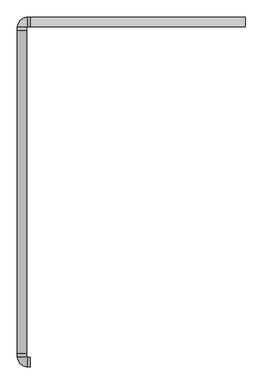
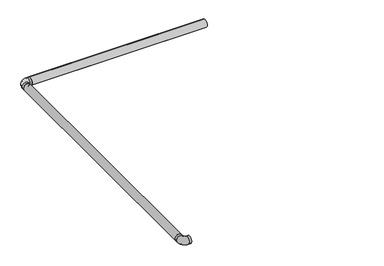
"""IFC4 building model written with IfcOpenShell, lengths in millimetres: light fixture geometry, ARTEMIDE-AoL-StandAlone-SquareRectangular_Suspended : StandALone_Suspended_SquareRectangular-1321x1911mm 11754lm 3000K."""

from ifc_helpers import new_model, si_unit, point, frame, frame_2d, origin, place, context, project, spatial, polyline, circle_curve, ellipse_curve, trimmed, segment, composite_curve, outline, extrude, source, transform, mapped, element, save
from ifc_brep_helpers import plane_surface, cylinder_surface, revolved_surface, advanced_brep


def light_fixture_18781653(model_context):
    return source(origin(), model_context, "Body", "SolidModel", [
        advanced_brep(
        [(13.25, -69.5, 502.9333396), (13.25, -69.5, 507.259212), (9.695913, -69.5, 507.259212), (9.695913, -69.5, 508.785971), (15.4937425, -69.5, 508.785971), (15.4937425, -69.5, 514.4273482), (34.5062575, -69.5, 514.4273482), (34.5062575, -69.5, 508.785971), (40.304087, -69.5, 508.785971), (40.304087, -69.5, 507.259212), (36.75, -69.5, 507.259212), (36.75, -69.5, 502.9333396), (70.5, -126.75, 502.9333396), (70.5, -103.25, 502.9333396), (70.5, -103.25, 507.259212), (70.5, -99.695913, 507.259212), (70.5, -99.695913, 508.785971), (70.5, -105.4937425, 508.785971), (70.5, -105.4937425, 514.4273482), (70.5, -124.5062575, 514.4273482), (70.5, -124.5062575, 508.785971), (70.5, -130.304087, 508.785971), (70.5, -130.304087, 507.259212), (70.5, -126.75, 507.259212), (36.75, -85.0, 502.9333396), (13.25, -85.0, 502.9333396), (36.75, -85.0, 507.259212), (40.304087, -85.0, 507.259212), (55.0, -99.695913, 507.259212), (55.0, -103.25, 507.259212), (40.304087, -85.0, 508.785971), (34.5062575, -85.0, 508.785971), (55.0, -105.4937425, 508.785971), (55.0, -99.695913, 508.785971), (34.5062575, -85.0, 514.4273482), (15.4937425, -85.0, 514.4273482), (55.0, -124.5062575, 514.4273482), (55.0, -105.4937425, 514.4273482), (15.4937425, -85.0, 508.785971), (9.695913, -85.0, 508.785971), (55.0, -130.304087, 508.785971), (55.0, -124.5062575, 508.785971), (9.695913, -85.0, 507.259212), (13.25, -85.0, 507.259212), (55.0, -126.75, 507.259212), (55.0, -130.304087, 507.259212), (55.0, -126.75, 502.9333396), (55.0, -103.25, 502.9333396)],
        [
            (0, 1),
            (1, 2),
            (2, 3),
            (3, 4),
            (4, 5),
            (5, 6),
            (6, 7),
            (7, 8),
            (8, 9),
            (9, 10),
            (10, 11),
            (11, 0, circle_curve(frame((25.0, -69.5, 525.0), z_axis=(0.0, 1.0, 0.0), x_axis=(1.0, 0.0, 0.0)), 25.0)),
            (12, 13, circle_curve(frame((70.5, -115.0, 525.0), z_axis=(1.0, 0.0, 0.0), x_axis=(0.0, 1.0, 0.0)), 25.0)),
            (13, 14),
            (14, 15),
            (15, 16),
            (16, 17),
            (17, 18),
            (18, 19),
            (19, 20),
            (20, 21),
            (21, 22),
            (22, 23),
            (23, 12),
            (11, 24),
            (24, 25, circle_curve(frame((25.0, -85.0, 525.0), z_axis=(0.0, 1.0, 0.0), x_axis=(1.0, 0.0, 0.0)), 25.0)),
            (25, 0),
            (10, 26),
            (26, 24),
            (9, 27),
            (27, 28, circle_curve(frame((55.0, -85.0, 507.259212), z_axis=(0.0, 0.0, 1.0), x_axis=(-1.0, 0.0, 0.0)), 14.695913)),
            (28, 15),
            (14, 29),
            (29, 26, circle_curve(frame((55.0, -85.0, 507.259212), z_axis=(0.0, 0.0, -1.0), x_axis=(-1.0, 0.0, 0.0)), 18.25)),
            (8, 30),
            (30, 27),
            (7, 31),
            (31, 32, circle_curve(frame((55.0, -85.0, 508.785971), z_axis=(0.0, 0.0, 1.0), x_axis=(-1.0, 0.0, 0.0)), 20.4937425)),
            (32, 17),
            (16, 33),
            (33, 30, circle_curve(frame((55.0, -85.0, 508.785971), z_axis=(0.0, 0.0, -1.0), x_axis=(-1.0, 0.0, 0.0)), 14.695913)),
            (6, 34),
            (34, 31),
            (5, 35),
            (35, 36, circle_curve(frame((55.0, -85.0, 514.4273482), z_axis=(0.0, 0.0, 1.0), x_axis=(-1.0, 0.0, 0.0)), 39.5062575)),
            (36, 19),
            (18, 37),
            (37, 34, circle_curve(frame((55.0, -85.0, 514.4273482), z_axis=(0.0, 0.0, -1.0), x_axis=(-1.0, 0.0, 0.0)), 20.4937425)),
            (4, 38),
            (38, 35),
            (3, 39),
            (39, 40, circle_curve(frame((55.0, -85.0, 508.785971), z_axis=(0.0, 0.0, 1.0), x_axis=(-1.0, 0.0, 0.0)), 45.304087)),
            (40, 21),
            (20, 41),
            (41, 38, circle_curve(frame((55.0, -85.0, 508.785971), z_axis=(0.0, 0.0, -1.0), x_axis=(-1.0, 0.0, 0.0)), 39.5062575)),
            (2, 42),
            (42, 39),
            (1, 43),
            (43, 44, circle_curve(frame((55.0, -85.0, 507.259212), z_axis=(0.0, 0.0, 1.0), x_axis=(-1.0, 0.0, 0.0)), 41.75)),
            (44, 23),
            (22, 45),
            (45, 42, circle_curve(frame((55.0, -85.0, 507.259212), z_axis=(0.0, 0.0, -1.0), x_axis=(-1.0, 0.0, 0.0)), 45.304087)),
            (25, 43),
            (46, 25, circle_curve(frame((55.0, -85.0, 502.9333396), z_axis=(0.0, 0.0, -1.0), x_axis=(-1.0, 0.0, 0.0)), 41.75)),
            (24, 47, circle_curve(frame((55.0, -85.0, 502.9333396), z_axis=(0.0, 0.0, 1.0), x_axis=(-1.0, 0.0, 0.0)), 18.25)),
            (47, 46, circle_curve(frame((55.0, -115.0, 525.0), z_axis=(-1.0, 0.0, 0.0), x_axis=(0.0, 1.0, 0.0)), 25.0)),
            (29, 47),
            (33, 28),
            (37, 32),
            (41, 36),
            (45, 40),
            (46, 44),
            (47, 13),
            (12, 46),
        ],
        [
            plane_surface(frame((25.0, -69.5, 500.0), z_axis=(0.0, 1.0, 0.0), x_axis=(0.0, 0.0, 1.0))),
            plane_surface(frame((70.5, -115.0, 500.0), z_axis=(1.0, 0.0, 0.0), x_axis=(0.0, 0.0, 1.0))),
            cylinder_surface(frame((25.0, -69.5, 525.0), z_axis=(0.0, 1.0, 0.0), x_axis=(1.0, 0.0, 0.0)), 25.0),
            plane_surface(frame((36.75, -69.5, 507.259212), z_axis=(1.0, 0.0, 0.0), x_axis=(0.0, -1.0, 0.0))),
            plane_surface(frame((40.304087, -69.5, 507.259212), z_axis=(0.0, 0.0, -1.0), x_axis=(0.0, -1.0, 0.0))),
            plane_surface(frame((40.304087, -69.5, 508.785971), z_axis=(1.0, 0.0, 0.0), x_axis=(0.0, -1.0, 0.0))),
            plane_surface(frame((34.5062575, -69.5, 508.785971), z_axis=(0.0, 0.0, 1.0), x_axis=(0.0, -1.0, 0.0))),
            plane_surface(frame((34.5062575, -69.5, 514.4273482), z_axis=(1.0, 0.0, 0.0), x_axis=(0.0, -1.0, 0.0))),
            plane_surface(frame((15.4937425, -69.5, 514.4273482), z_axis=(0.0, 0.0, 1.0), x_axis=(0.0, -1.0, 0.0))),
            plane_surface(frame((15.4937425, -69.5, 508.785971), z_axis=(-1.0, 0.0, 0.0), x_axis=(0.0, -1.0, 0.0))),
            plane_surface(frame((9.695913, -69.5, 508.785971), z_axis=(0.0, 0.0, 1.0), x_axis=(0.0, -1.0, 0.0))),
            plane_surface(frame((9.695913, -69.5, 507.259212), z_axis=(-1.0, 0.0, 0.0), x_axis=(0.0, -1.0, 0.0))),
            plane_surface(frame((13.25, -69.5, 507.259212), z_axis=(0.0, 0.0, -1.0), x_axis=(0.0, -1.0, 0.0))),
            plane_surface(frame((13.25, -69.5, 502.9333396), z_axis=(-1.0, 0.0, 0.0), x_axis=(0.0, -1.0, 0.0))),
            revolved_surface(trimmed(ellipse_curve(frame((25.0, -85.0, 525.0), z_axis=(0.0, 1.0, 0.0), x_axis=(1.0, 0.0, 0.0)), 25.0, 25.0), [point((36.75, -85.0, 502.9333396))], [point((13.25, -85.0, 502.9333396))], True, "CARTESIAN"), (55.0, -85.0, 500.0), (0.0, 0.0, 1.0)),
            revolved_surface(polyline([(36.75, -85.0, 507.259212), (36.75, -85.0, 502.9333396)]), (55.0, -85.0, 500.0), (0.0, 0.0, 1.0)),
            revolved_surface(polyline([(40.304087, -85.0, 508.785971), (40.304087, -85.0, 507.259212)]), (55.0, -85.0, 500.0), (0.0, 0.0, 1.0)),
            revolved_surface(polyline([(34.506257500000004, -85.0, 514.4273482), (34.506257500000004, -85.0, 508.785971)]), (55.0, -85.0, 500.0), (0.0, 0.0, 1.0)),
            cylinder_surface(frame((55.0, -85.0, 500.0), z_axis=(0.0, 0.0, 1.0), x_axis=(-1.0, 0.0, 0.0)), 39.5062575),
            cylinder_surface(frame((55.0, -85.0, 500.0), z_axis=(0.0, 0.0, 1.0), x_axis=(-1.0, 0.0, 0.0)), 45.304087),
            cylinder_surface(frame((55.0, -85.0, 500.0), z_axis=(0.0, 0.0, 1.0), x_axis=(-1.0, 0.0, 0.0)), 41.75),
            cylinder_surface(frame((55.0, -115.0, 525.0), z_axis=(-1.0, 0.0, 0.0), x_axis=(0.0, 1.0, 0.0)), 25.0),
            plane_surface(frame((55.0, -103.25, 507.259212), z_axis=(0.0, 1.0, 0.0), x_axis=(1.0, 0.0, 0.0))),
            plane_surface(frame((55.0, -99.695913, 508.785971), z_axis=(0.0, 1.0, 0.0), x_axis=(1.0, 0.0, 0.0))),
            plane_surface(frame((55.0, -105.4937425, 514.4273482), z_axis=(0.0, 1.0, 0.0), x_axis=(1.0, 0.0, 0.0))),
            plane_surface(frame((55.0, -124.5062575, 508.785971), z_axis=(0.0, -1.0, 0.0), x_axis=(1.0, 0.0, 0.0))),
            plane_surface(frame((55.0, -130.304087, 507.259212), z_axis=(0.0, -1.0, 0.0), x_axis=(1.0, 0.0, 0.0))),
            plane_surface(frame((55.0, -126.75, 502.9333396), z_axis=(0.0, -1.0, 0.0), x_axis=(1.0, 0.0, 0.0))),
        ],
        [
            (0, [[1, 2, 3, 4, 5, 6, 7, 8, 9, 10, 11, 12]]),
            (1, [[13, 14, 15, 16, 17, 18, 19, 20, 21, 22, 23, 24]]),
            (2, [[-12, 25, 26, 27]]),
            (3, [[-11, 28, 29, -25]]),
            (4, [[-10, 30, 31, 32, -15, 33, 34, -28]]),
            (5, [[-9, 35, 36, -30]]),
            (6, [[-8, 37, 38, 39, -17, 40, 41, -35]]),
            (7, [[-7, 42, 43, -37]]),
            (8, [[-6, 44, 45, 46, -19, 47, 48, -42]]),
            (9, [[-5, 49, 50, -44]]),
            (10, [[-4, 51, 52, 53, -21, 54, 55, -49]]),
            (11, [[-3, 56, 57, -51]]),
            (12, [[-2, 58, 59, 60, -23, 61, 62, -56]]),
            (13, [[-1, -27, 63, -58]]),
            (14, [[64, -26, 65, 66]]),
            (15, [[-65, -29, -34, 67]]),
            (16, [[-31, -36, -41, 68]]),
            (17, [[-38, -43, -48, 69]]),
            (18, [[-45, -50, -55, 70]]),
            (19, [[-52, -57, -62, 71]]),
            (20, [[-59, -63, -64, 72]]),
            (21, [[-66, 73, -13, 74]]),
            (22, [[-67, -33, -14, -73]]),
            (23, [[-68, -40, -16, -32]]),
            (24, [[-69, -47, -18, -39]]),
            (25, [[-70, -54, -20, -46]]),
            (26, [[-71, -61, -22, -53]]),
            (27, [[-72, -74, -24, -60]]),
        ],
    ),
        advanced_brep(
        [(36.75, -69.5, 502.9333396), (36.75, -69.5, 507.259212), (38.667754, -69.5, 507.259212), (38.667754, -69.5, 505.8288843), (40.617754, -69.5, 507.2440748), (40.617754, -69.5, 509.244074), (37.667754, -69.5, 509.244074), (37.667754, -69.5, 510.744074), (42.2779794, -69.5, 510.744074), (7.7220206, -69.5, 510.744074), (12.332246, -69.5, 510.744074), (12.332246, -69.5, 509.244074), (9.382246, -69.5, 509.244074), (9.382246, -69.5, 507.2440748), (11.332246, -69.5, 505.8288843), (11.332246, -69.5, 507.259212), (13.25, -69.5, 507.259212), (13.25, -69.5, 502.9333396), (70.5, -103.25, 502.9333396), (70.5, -126.75, 502.9333396), (70.5, -126.75, 507.259212), (70.5, -128.667754, 507.259212), (70.5, -128.667754, 505.8288843), (70.5, -130.617754, 507.2440748), (70.5, -130.617754, 509.244074), (70.5, -127.667754, 509.244074), (70.5, -127.667754, 510.744074), (70.5, -132.2779794, 510.744074), (70.5, -97.7220206, 510.744074), (70.5, -102.332246, 510.744074), (70.5, -102.332246, 509.244074), (70.5, -99.382246, 509.244074), (70.5, -99.382246, 507.2440748), (70.5, -101.332246, 505.8288843), (70.5, -101.332246, 507.259212), (70.5, -103.25, 507.259212), (13.25, -85.0, 502.9333396), (36.75, -85.0, 502.9333396), (13.25, -85.0, 507.259212), (11.332246, -85.0, 507.259212), (55.0, -128.667754, 507.259212), (55.0, -126.75, 507.259212), (11.332246, -85.0, 505.8288843), (9.382246, -85.0, 507.2440748), (9.382246, -85.0, 509.244074), (12.332246, -85.0, 509.244074), (55.0, -127.667754, 509.244074), (55.0, -130.617754, 509.244074), (12.332246, -85.0, 510.744074), (7.7220206, -85.0, 510.744074), (55.0, -132.2779794, 510.744074), (55.0, -127.667754, 510.744074), (42.2779794, -85.0, 510.744074), (37.667754, -85.0, 510.744074), (55.0, -102.332246, 510.744074), (55.0, -97.7220206, 510.744074), (37.667754, -85.0, 509.244074), (40.617754, -85.0, 509.244074), (55.0, -99.382246, 509.244074), (55.0, -102.332246, 509.244074), (40.617754, -85.0, 507.2440748), (38.667754, -85.0, 505.8288843), (38.667754, -85.0, 507.259212), (36.75, -85.0, 507.259212), (55.0, -103.25, 507.259212), (55.0, -101.332246, 507.259212), (55.0, -103.25, 502.9333396), (55.0, -126.75, 502.9333396), (55.0, -128.667754, 505.8288843), (55.0, -130.617754, 507.2440748), (55.0, -99.382246, 507.2440748), (55.0, -101.332246, 505.8288843)],
        [
            (0, 1),
            (1, 2),
            (2, 3),
            (3, 4),
            (4, 5),
            (5, 6),
            (6, 7),
            (7, 8),
            (8, 9, circle_curve(frame((25.0, -69.5, 525.0), z_axis=(0.0, -1.0, 0.0), x_axis=(1.0, 0.0, 0.0)), 22.4)),
            (9, 10),
            (10, 11),
            (11, 12),
            (12, 13),
            (13, 14),
            (14, 15),
            (15, 16),
            (16, 17),
            (17, 0, circle_curve(frame((25.0, -69.5, 525.0), z_axis=(0.0, 1.0, 0.0), x_axis=(1.0, 0.0, 0.0)), 25.0)),
            (18, 19, circle_curve(frame((70.5, -115.0, 525.0), z_axis=(1.0, 0.0, 0.0), x_axis=(0.0, 1.0, 0.0)), 25.0)),
            (19, 20),
            (20, 21),
            (21, 22),
            (22, 23),
            (23, 24),
            (24, 25),
            (25, 26),
            (26, 27),
            (27, 28, circle_curve(frame((70.5, -115.0, 525.0), z_axis=(-1.0, 0.0, 0.0), x_axis=(0.0, 1.0, 0.0)), 22.4)),
            (28, 29),
            (29, 30),
            (30, 31),
            (31, 32),
            (32, 33),
            (33, 34),
            (34, 35),
            (35, 18),
            (17, 36),
            (36, 37, circle_curve(frame((25.0, -85.0, 525.0), z_axis=(0.0, 1.0, 0.0), x_axis=(1.0, 0.0, 0.0)), 25.0)),
            (37, 0),
            (16, 38),
            (38, 36),
            (15, 39),
            (39, 40, circle_curve(frame((55.0, -85.0, 507.259212), z_axis=(0.0, 0.0, 1.0), x_axis=(-1.0, 0.0, 0.0)), 43.667754)),
            (40, 21),
            (20, 41),
            (41, 38, circle_curve(frame((55.0, -85.0, 507.259212), z_axis=(0.0, 0.0, -1.0), x_axis=(-1.0, 0.0, 0.0)), 41.75)),
            (14, 42),
            (42, 39),
            (13, 43),
            (43, 42),
            (12, 44),
            (44, 43),
            (11, 45),
            (45, 46, circle_curve(frame((55.0, -85.0, 509.244074), z_axis=(0.0, 0.0, 1.0), x_axis=(-1.0, 0.0, 0.0)), 42.667754)),
            (46, 25),
            (24, 47),
            (47, 44, circle_curve(frame((55.0, -85.0, 509.244074), z_axis=(0.0, 0.0, -1.0), x_axis=(-1.0, 0.0, 0.0)), 45.617754)),
            (10, 48),
            (48, 45),
            (9, 49),
            (49, 50, circle_curve(frame((55.0, -85.0, 510.744074), z_axis=(0.0, 0.0, 1.0), x_axis=(-1.0, 0.0, 0.0)), 47.2779794)),
            (50, 27),
            (26, 51),
            (51, 48, circle_curve(frame((55.0, -85.0, 510.744074), z_axis=(0.0, 0.0, -1.0), x_axis=(-1.0, 0.0, 0.0)), 42.667754)),
            (8, 52),
            (52, 49, circle_curve(frame((25.0, -85.0, 525.0), z_axis=(0.0, -1.0, 0.0), x_axis=(1.0, 0.0, 0.0)), 22.4)),
            (7, 53),
            (53, 54, circle_curve(frame((55.0, -85.0, 510.744074), z_axis=(0.0, 0.0, 1.0), x_axis=(-1.0, 0.0, 0.0)), 17.332246)),
            (54, 29),
            (28, 55),
            (55, 52, circle_curve(frame((55.0, -85.0, 510.744074), z_axis=(0.0, 0.0, -1.0), x_axis=(-1.0, 0.0, 0.0)), 12.7220206)),
            (6, 56),
            (56, 53),
            (5, 57),
            (57, 58, circle_curve(frame((55.0, -85.0, 509.244074), z_axis=(0.0, 0.0, 1.0), x_axis=(-1.0, 0.0, 0.0)), 14.382246)),
            (58, 31),
            (30, 59),
            (59, 56, circle_curve(frame((55.0, -85.0, 509.244074), z_axis=(0.0, 0.0, -1.0), x_axis=(-1.0, 0.0, 0.0)), 17.332246)),
            (4, 60),
            (60, 57),
            (3, 61),
            (61, 60),
            (2, 62),
            (62, 61),
            (1, 63),
            (63, 64, circle_curve(frame((55.0, -85.0, 507.259212), z_axis=(0.0, 0.0, 1.0), x_axis=(-1.0, 0.0, 0.0)), 18.25)),
            (64, 35),
            (34, 65),
            (65, 62, circle_curve(frame((55.0, -85.0, 507.259212), z_axis=(0.0, 0.0, -1.0), x_axis=(-1.0, 0.0, 0.0)), 16.332246)),
            (37, 63),
            (66, 37, circle_curve(frame((55.0, -85.0, 502.9333396), z_axis=(0.0, 0.0, -1.0), x_axis=(-1.0, 0.0, 0.0)), 18.25)),
            (36, 67, circle_curve(frame((55.0, -85.0, 502.9333396), z_axis=(0.0, 0.0, 1.0), x_axis=(-1.0, 0.0, 0.0)), 41.75)),
            (67, 66, circle_curve(frame((55.0, -115.0, 525.0), z_axis=(-1.0, 0.0, 0.0), x_axis=(0.0, 1.0, 0.0)), 25.0)),
            (41, 67),
            (42, 68, circle_curve(frame((55.0, -85.0, 505.8288843), z_axis=(0.0, 0.0, 1.0), x_axis=(-1.0, 0.0, 0.0)), 43.667754)),
            (68, 40),
            (43, 69, circle_curve(frame((55.0, -85.0, 507.2440748), z_axis=(0.0, 0.0, 1.0), x_axis=(-1.0, 0.0, 0.0)), 45.617754)),
            (69, 68),
            (47, 69),
            (51, 46),
            (55, 50, circle_curve(frame((55.0, -115.0, 525.0), z_axis=(1.0, 0.0, 0.0), x_axis=(0.0, 1.0, 0.0)), 22.4)),
            (59, 54),
            (60, 70, circle_curve(frame((55.0, -85.0, 507.2440748), z_axis=(0.0, 0.0, 1.0), x_axis=(-1.0, 0.0, 0.0)), 14.382246)),
            (70, 58),
            (61, 71, circle_curve(frame((55.0, -85.0, 505.8288843), z_axis=(0.0, 0.0, 1.0), x_axis=(-1.0, 0.0, 0.0)), 16.332246)),
            (71, 70),
            (65, 71),
            (66, 64),
            (67, 19),
            (18, 66),
            (68, 22),
            (69, 23),
            (70, 32),
            (71, 33),
        ],
        [
            plane_surface(frame((25.0, -69.5, 500.0), z_axis=(0.0, 1.0, 0.0), x_axis=(0.0, 0.0, 1.0))),
            plane_surface(frame((70.5, -115.0, 500.0), z_axis=(1.0, 0.0, 0.0), x_axis=(0.0, 0.0, 1.0))),
            cylinder_surface(frame((25.0, -69.5, 525.0), z_axis=(0.0, 1.0, 0.0), x_axis=(1.0, 0.0, 0.0)), 25.0),
            plane_surface(frame((13.25, -69.5, 507.259212), z_axis=(1.0, 0.0, 0.0), x_axis=(0.0, -1.0, 0.0))),
            plane_surface(frame((11.332246, -69.5, 507.259212), z_axis=(0.0, 0.0, 1.0), x_axis=(0.0, -1.0, 0.0))),
            plane_surface(frame((11.332246, -69.5, 505.8288843), z_axis=(-1.0, 0.0, 0.0), x_axis=(0.0, -1.0, 0.0))),
            plane_surface(frame((9.382246, -69.5, 507.2440748), z_axis=(0.5873593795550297, 0.0, 0.8093262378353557), x_axis=(0.0, -1.0, 0.0))),
            plane_surface(frame((9.382246, -69.5, 509.244074), z_axis=(1.0, 0.0, 0.0), x_axis=(0.0, -1.0, 0.0))),
            plane_surface(frame((12.332246, -69.5, 509.244074), z_axis=(0.0, 0.0, -1.0), x_axis=(0.0, -1.0, 0.0))),
            plane_surface(frame((12.332246, -69.5, 510.744074), z_axis=(1.0, 0.0, 0.0), x_axis=(0.0, -1.0, 0.0))),
            plane_surface(frame((7.7220206, -69.5, 510.744074), z_axis=(0.0, 0.0, 1.0), x_axis=(0.0, -1.0, 0.0))),
            revolved_surface(polyline([(47.4, -85.0, 525.0), (47.4, -69.5, 525.0)]), (25.0, -69.5, 525.0), (0.0, -1.0, 0.0)),
            plane_surface(frame((37.667754, -69.5, 510.744074), z_axis=(0.0, 0.0, 1.0), x_axis=(0.0, -1.0, 0.0))),
            plane_surface(frame((37.667754, -69.5, 509.244074), z_axis=(-1.0, 0.0, 0.0), x_axis=(0.0, -1.0, 0.0))),
            plane_surface(frame((40.617754, -69.5, 509.244074), z_axis=(0.0, 0.0, -1.0), x_axis=(0.0, -1.0, 0.0))),
            plane_surface(frame((40.617754, -69.5, 507.2440748), z_axis=(-1.0, 0.0, 0.0), x_axis=(0.0, -1.0, 0.0))),
            plane_surface(frame((38.667754, -69.5, 505.8288843), z_axis=(-0.5873593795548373, 0.0, 0.8093262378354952), x_axis=(0.0, -1.0, 0.0))),
            plane_surface(frame((38.667754, -69.5, 507.259212), z_axis=(1.0, 0.0, 0.0), x_axis=(0.0, -1.0, 0.0))),
            plane_surface(frame((36.75, -69.5, 507.259212), z_axis=(0.0, 0.0, 1.0), x_axis=(0.0, -1.0, 0.0))),
            plane_surface(frame((36.75, -69.5, 502.9333396), z_axis=(-1.0, 0.0, 0.0), x_axis=(0.0, -1.0, 0.0))),
            revolved_surface(trimmed(ellipse_curve(frame((25.0, -85.0, 525.0), z_axis=(0.0, 1.0, 0.0), x_axis=(1.0, 0.0, 0.0)), 25.0, 25.0), [point((13.25, -85.0, 502.9333396))], [point((36.75, -85.0, 502.9333396))], True, "CARTESIAN"), (55.0, -85.0, 500.0), (0.0, 0.0, 1.0)),
            revolved_surface(polyline([(13.25, -85.0, 507.259212), (13.25, -85.0, 502.9333396)]), (55.0, -85.0, 500.0), (0.0, 0.0, 1.0)),
            cylinder_surface(frame((55.0, -85.0, 500.0), z_axis=(0.0, 0.0, 1.0), x_axis=(-1.0, 0.0, 0.0)), 43.667754),
            revolved_surface(polyline([(9.382246, -85.0, 507.2440748), (11.332246, -85.0, 505.8288843)]), (55.0, -85.0, 500.0), (0.0, 0.0, 1.0)),
            revolved_surface(polyline([(9.382246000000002, -85.0, 509.244074), (9.382246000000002, -85.0, 507.2440748)]), (55.0, -85.0, 500.0), (0.0, 0.0, 1.0)),
            revolved_surface(polyline([(12.332245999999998, -85.0, 510.744074), (12.332245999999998, -85.0, 509.244074)]), (55.0, -85.0, 500.0), (0.0, 0.0, 1.0)),
            revolved_surface(trimmed(ellipse_curve(frame((25.0, -85.0, 525.0), z_axis=(0.0, -1.0, 0.0), x_axis=(1.0, 0.0, 0.0)), 22.4, 22.4), [point((42.2779794, -85.0, 510.744074))], [point((7.7220206, -85.0, 510.744074))], True, "CARTESIAN"), (55.0, -85.0, 500.0), (0.0, 0.0, 1.0)),
            cylinder_surface(frame((55.0, -85.0, 500.0), z_axis=(0.0, 0.0, 1.0), x_axis=(-1.0, 0.0, 0.0)), 17.332246),
            cylinder_surface(frame((55.0, -85.0, 500.0), z_axis=(0.0, 0.0, 1.0), x_axis=(-1.0, 0.0, 0.0)), 14.382246),
            revolved_surface(polyline([(38.667754, -85.0, 505.8288843), (40.617754, -85.0, 507.2440748)]), (55.0, -85.0, 500.0), (0.0, 0.0, 1.0)),
            revolved_surface(polyline([(38.667754, -85.0, 507.259212), (38.667754, -85.0, 505.8288843)]), (55.0, -85.0, 500.0), (0.0, 0.0, 1.0)),
            cylinder_surface(frame((55.0, -85.0, 500.0), z_axis=(0.0, 0.0, 1.0), x_axis=(-1.0, 0.0, 0.0)), 18.25),
            cylinder_surface(frame((55.0, -115.0, 525.0), z_axis=(-1.0, 0.0, 0.0), x_axis=(0.0, 1.0, 0.0)), 25.0),
            plane_surface(frame((55.0, -126.75, 507.259212), z_axis=(0.0, 1.0, 0.0), x_axis=(1.0, 0.0, 0.0))),
            plane_surface(frame((55.0, -128.667754, 505.8288843), z_axis=(0.0, -1.0, 0.0), x_axis=(1.0, 0.0, 0.0))),
            plane_surface(frame((55.0, -130.617754, 507.2440748), z_axis=(0.0, 0.5873593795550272, 0.8093262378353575), x_axis=(1.0, 0.0, 0.0))),
            plane_surface(frame((55.0, -130.617754, 509.244074), z_axis=(0.0, 1.0, 0.0), x_axis=(1.0, 0.0, 0.0))),
            plane_surface(frame((55.0, -127.667754, 510.744074), z_axis=(0.0, 1.0, 0.0), x_axis=(1.0, 0.0, 0.0))),
            revolved_surface(polyline([(70.5, -92.6, 525.0), (55.0, -92.6, 525.0)]), (55.0, -115.0, 525.0), (1.0, 0.0, 0.0)),
            plane_surface(frame((55.0, -102.332246, 509.244074), z_axis=(0.0, -1.0, 0.0), x_axis=(1.0, 0.0, 0.0))),
            plane_surface(frame((55.0, -99.382246, 507.2440748), z_axis=(0.0, -1.0, 0.0), x_axis=(1.0, 0.0, 0.0))),
            plane_surface(frame((55.0, -101.332246, 505.8288843), z_axis=(0.0, -0.5873593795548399, 0.8093262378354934), x_axis=(1.0, 0.0, 0.0))),
            plane_surface(frame((55.0, -101.332246, 507.259212), z_axis=(0.0, 1.0, 0.0), x_axis=(1.0, 0.0, 0.0))),
            plane_surface(frame((55.0, -103.25, 502.9333396), z_axis=(0.0, -1.0, 0.0), x_axis=(1.0, 0.0, 0.0))),
        ],
        [
            (0, [[1, 2, 3, 4, 5, 6, 7, 8, 9, 10, 11, 12, 13, 14, 15, 16, 17, 18]]),
            (1, [[19, 20, 21, 22, 23, 24, 25, 26, 27, 28, 29, 30, 31, 32, 33, 34, 35, 36]]),
            (2, [[-18, 37, 38, 39]]),
            (3, [[-17, 40, 41, -37]]),
            (4, [[-16, 42, 43, 44, -21, 45, 46, -40]]),
            (5, [[-15, 47, 48, -42]]),
            (6, [[-14, 49, 50, -47]]),
            (7, [[-13, 51, 52, -49]]),
            (8, [[-12, 53, 54, 55, -25, 56, 57, -51]]),
            (9, [[-11, 58, 59, -53]]),
            (10, [[-10, 60, 61, 62, -27, 63, 64, -58]]),
            (11, [[-9, 65, 66, -60]]),
            (12, [[-8, 67, 68, 69, -29, 70, 71, -65]]),
            (13, [[-7, 72, 73, -67]]),
            (14, [[-6, 74, 75, 76, -31, 77, 78, -72]]),
            (15, [[-5, 79, 80, -74]]),
            (16, [[-4, 81, 82, -79]]),
            (17, [[-3, 83, 84, -81]]),
            (18, [[-2, 85, 86, 87, -35, 88, 89, -83]]),
            (19, [[-1, -39, 90, -85]]),
            (20, [[91, -38, 92, 93]]),
            (21, [[-92, -41, -46, 94]]),
            (22, [[-43, -48, 95, 96]]),
            (23, [[-95, -50, 97, 98]]),
            (24, [[-97, -52, -57, 99]]),
            (25, [[-54, -59, -64, 100]]),
            (26, [[-61, -66, -71, 101]]),
            (27, [[-68, -73, -78, 102]]),
            (28, [[-75, -80, 103, 104]]),
            (29, [[-103, -82, 105, 106]]),
            (30, [[-105, -84, -89, 107]]),
            (31, [[-86, -90, -91, 108]]),
            (32, [[-93, 109, -19, 110]]),
            (33, [[-94, -45, -20, -109]]),
            (34, [[-96, 111, -22, -44]]),
            (35, [[-98, 112, -23, -111]]),
            (36, [[-99, -56, -24, -112]]),
            (37, [[-100, -63, -26, -55]]),
            (38, [[-101, -70, -28, -62]]),
            (39, [[-102, -77, -30, -69]]),
            (40, [[-104, 113, -32, -76]]),
            (41, [[-106, 114, -33, -113]]),
            (42, [[-107, -88, -34, -114]]),
            (43, [[-108, -110, -36, -87]]),
        ],
    ),
        advanced_brep(
        [(13.25, 1700.5, 502.9333396), (36.75, 1700.5, 502.9333396), (36.75, 1700.5, 507.259212), (40.304087, 1700.5, 507.259212), (40.304087, 1700.5, 508.785971), (34.5062575, 1700.5, 508.785971), (34.5062575, 1700.5, 514.4273482), (15.4937425, 1700.5, 514.4273482), (15.4937425, 1700.5, 508.785971), (9.695913, 1700.5, 508.785971), (9.695913, 1700.5, 507.259212), (13.25, 1700.5, 507.259212), (70.5, 1757.75, 502.9333396), (70.5, 1757.75, 507.259212), (70.5, 1761.304087, 507.259212), (70.5, 1761.304087, 508.785971), (70.5, 1755.5062575, 508.785971), (70.5, 1755.5062575, 514.4273482), (70.5, 1736.4937425, 514.4273482), (70.5, 1736.4937425, 508.785971), (70.5, 1730.695913, 508.785971), (70.5, 1730.695913, 507.259212), (70.5, 1734.25, 507.259212), (70.5, 1734.25, 502.9333396), (13.25, 1716.0, 502.9333396), (36.75, 1716.0, 502.9333396), (36.75, 1716.0, 507.259212), (55.0, 1734.25, 507.259212), (55.0, 1730.695913, 507.259212), (40.304087, 1716.0, 507.259212), (40.304087, 1716.0, 508.785971), (55.0, 1730.695913, 508.785971), (55.0, 1736.4937425, 508.785971), (34.5062575, 1716.0, 508.785971), (34.5062575, 1716.0, 514.4273482), (55.0, 1736.4937425, 514.4273482), (55.0, 1755.5062575, 514.4273482), (15.4937425, 1716.0, 514.4273482), (15.4937425, 1716.0, 508.785971), (55.0, 1755.5062575, 508.785971), (55.0, 1761.304087, 508.785971), (9.695913, 1716.0, 508.785971), (9.695913, 1716.0, 507.259212), (55.0, 1761.304087, 507.259212), (55.0, 1757.75, 507.259212), (13.25, 1716.0, 507.259212), (55.0, 1734.25, 502.9333396), (55.0, 1757.75, 502.9333396)],
        [
            (0, 1, circle_curve(frame((25.0, 1700.5, 525.0), z_axis=(0.0, -1.0, 0.0), x_axis=(-1.0, 0.0, 0.0)), 25.0)),
            (1, 2),
            (2, 3),
            (3, 4),
            (4, 5),
            (5, 6),
            (6, 7),
            (7, 8),
            (8, 9),
            (9, 10),
            (10, 11),
            (11, 0),
            (12, 13),
            (13, 14),
            (14, 15),
            (15, 16),
            (16, 17),
            (17, 18),
            (18, 19),
            (19, 20),
            (20, 21),
            (21, 22),
            (22, 23),
            (23, 12, circle_curve(frame((70.5, 1746.0, 525.0), z_axis=(1.0, 0.0, 0.0), x_axis=(0.0, 1.0, 0.0)), 25.0)),
            (0, 24),
            (24, 25, circle_curve(frame((25.0, 1716.0, 525.0), z_axis=(0.0, -1.0, 0.0), x_axis=(-1.0, 0.0, 0.0)), 25.0)),
            (25, 1),
            (25, 26),
            (26, 2),
            (26, 27, circle_curve(frame((55.0, 1716.0, 507.259212), z_axis=(0.0, 0.0, -1.0), x_axis=(-1.0, 0.0, 0.0)), 18.25)),
            (27, 22),
            (21, 28),
            (28, 29, circle_curve(frame((55.0, 1716.0, 507.259212), z_axis=(0.0, 0.0, 1.0), x_axis=(-1.0, 0.0, 0.0)), 14.695913)),
            (29, 3),
            (29, 30),
            (30, 4),
            (30, 31, circle_curve(frame((55.0, 1716.0, 508.785971), z_axis=(0.0, 0.0, -1.0), x_axis=(-1.0, 0.0, 0.0)), 14.695913)),
            (31, 20),
            (19, 32),
            (32, 33, circle_curve(frame((55.0, 1716.0, 508.785971), z_axis=(0.0, 0.0, 1.0), x_axis=(-1.0, 0.0, 0.0)), 20.4937425)),
            (33, 5),
            (33, 34),
            (34, 6),
            (34, 35, circle_curve(frame((55.0, 1716.0, 514.4273482), z_axis=(0.0, 0.0, -1.0), x_axis=(-1.0, 0.0, 0.0)), 20.4937425)),
            (35, 18),
            (17, 36),
            (36, 37, circle_curve(frame((55.0, 1716.0, 514.4273482), z_axis=(0.0, 0.0, 1.0), x_axis=(-1.0, 0.0, 0.0)), 39.5062575)),
            (37, 7),
            (37, 38),
            (38, 8),
            (38, 39, circle_curve(frame((55.0, 1716.0, 508.785971), z_axis=(0.0, 0.0, -1.0), x_axis=(-1.0, 0.0, 0.0)), 39.5062575)),
            (39, 16),
            (15, 40),
            (40, 41, circle_curve(frame((55.0, 1716.0, 508.785971), z_axis=(0.0, 0.0, 1.0), x_axis=(-1.0, 0.0, 0.0)), 45.304087)),
            (41, 9),
            (41, 42),
            (42, 10),
            (42, 43, circle_curve(frame((55.0, 1716.0, 507.259212), z_axis=(0.0, 0.0, -1.0), x_axis=(-1.0, 0.0, 0.0)), 45.304087)),
            (43, 14),
            (13, 44),
            (44, 45, circle_curve(frame((55.0, 1716.0, 507.259212), z_axis=(0.0, 0.0, 1.0), x_axis=(-1.0, 0.0, 0.0)), 41.75)),
            (45, 11),
            (45, 24),
            (46, 25, circle_curve(frame((55.0, 1716.0, 502.9333396), z_axis=(0.0, 0.0, 1.0), x_axis=(-1.0, 0.0, 0.0)), 18.25)),
            (24, 47, circle_curve(frame((55.0, 1716.0, 502.9333396), z_axis=(0.0, 0.0, -1.0), x_axis=(-1.0, 0.0, 0.0)), 41.75)),
            (47, 46, circle_curve(frame((55.0, 1746.0, 525.0), z_axis=(-1.0, 0.0, 0.0), x_axis=(0.0, 1.0, 0.0)), 25.0)),
            (46, 27),
            (28, 31),
            (32, 35),
            (36, 39),
            (40, 43),
            (44, 47),
            (47, 12),
            (23, 46),
        ],
        [
            plane_surface(frame((25.0, 1700.5, 500.0), z_axis=(0.0, -1.0, 0.0), x_axis=(0.0, 0.0, 1.0))),
            plane_surface(frame((70.5, 1746.0, 500.0), z_axis=(1.0, 0.0, 0.0), x_axis=(0.0, 0.0, 1.0))),
            cylinder_surface(frame((25.0, 1700.5, 525.0), z_axis=(0.0, -1.0, 0.0), x_axis=(-1.0, 0.0, 0.0)), 25.0),
            plane_surface(frame((36.75, 1700.5, 502.9333396), z_axis=(1.0, 0.0, 0.0), x_axis=(0.0, 1.0, 0.0))),
            plane_surface(frame((36.75, 1700.5, 507.259212), z_axis=(0.0, 0.0, -1.0), x_axis=(0.0, 1.0, 0.0))),
            plane_surface(frame((40.304087, 1700.5, 507.259212), z_axis=(1.0, 0.0, 0.0), x_axis=(0.0, 1.0, 0.0))),
            plane_surface(frame((40.304087, 1700.5, 508.785971), z_axis=(0.0, 0.0, 1.0), x_axis=(0.0, 1.0, 0.0))),
            plane_surface(frame((34.5062575, 1700.5, 508.785971), z_axis=(1.0, 0.0, 0.0), x_axis=(0.0, 1.0, 0.0))),
            plane_surface(frame((34.5062575, 1700.5, 514.4273482), z_axis=(0.0, 0.0, 1.0), x_axis=(0.0, 1.0, 0.0))),
            plane_surface(frame((15.4937425, 1700.5, 514.4273482), z_axis=(-1.0, 0.0, 0.0), x_axis=(0.0, 1.0, 0.0))),
            plane_surface(frame((15.4937425, 1700.5, 508.785971), z_axis=(0.0, 0.0, 1.0), x_axis=(0.0, 1.0, 0.0))),
            plane_surface(frame((9.695913, 1700.5, 508.785971), z_axis=(-1.0, 0.0, 0.0), x_axis=(0.0, 1.0, 0.0))),
            plane_surface(frame((9.695913, 1700.5, 507.259212), z_axis=(0.0, 0.0, -1.0), x_axis=(0.0, 1.0, 0.0))),
            plane_surface(frame((13.25, 1700.5, 507.259212), z_axis=(-1.0, 0.0, 0.0), x_axis=(0.0, 1.0, 0.0))),
            revolved_surface(trimmed(ellipse_curve(frame((25.0, 1716.0, 525.0), z_axis=(0.0, -1.0, 0.0), x_axis=(-1.0, 0.0, 0.0)), 25.0, 25.0), [point((13.25, 1716.0, 502.9333396))], [point((36.75, 1716.0, 502.9333396))], True, "CARTESIAN"), (55.0, 1716.0, 500.0), (0.0, 0.0, -1.0)),
            revolved_surface(polyline([(36.75, 1716.0, 502.9333396), (36.75, 1716.0, 507.259212)]), (55.0, 1716.0, 500.0), (0.0, 0.0, -1.0)),
            revolved_surface(polyline([(40.304087, 1716.0, 507.259212), (40.304087, 1716.0, 508.785971)]), (55.0, 1716.0, 500.0), (0.0, 0.0, -1.0)),
            revolved_surface(polyline([(34.506257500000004, 1716.0, 508.785971), (34.506257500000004, 1716.0, 514.4273482)]), (55.0, 1716.0, 500.0), (0.0, 0.0, -1.0)),
            cylinder_surface(frame((55.0, 1716.0, 500.0), z_axis=(0.0, 0.0, -1.0), x_axis=(-1.0, 0.0, 0.0)), 39.5062575),
            cylinder_surface(frame((55.0, 1716.0, 500.0), z_axis=(0.0, 0.0, -1.0), x_axis=(-1.0, 0.0, 0.0)), 45.304087),
            cylinder_surface(frame((55.0, 1716.0, 500.0), z_axis=(0.0, 0.0, -1.0), x_axis=(-1.0, 0.0, 0.0)), 41.75),
            cylinder_surface(frame((55.0, 1746.0, 525.0), z_axis=(-1.0, 0.0, 0.0), x_axis=(0.0, 1.0, 0.0)), 25.0),
            plane_surface(frame((55.0, 1734.25, 502.9333396), z_axis=(0.0, -1.0, 0.0), x_axis=(1.0, 0.0, 0.0))),
            plane_surface(frame((55.0, 1730.695913, 507.259212), z_axis=(0.0, -1.0, 0.0), x_axis=(1.0, 0.0, 0.0))),
            plane_surface(frame((55.0, 1736.4937425, 508.785971), z_axis=(0.0, -1.0, 0.0), x_axis=(1.0, 0.0, 0.0))),
            plane_surface(frame((55.0, 1755.5062575, 514.4273482), z_axis=(0.0, 1.0, 0.0), x_axis=(1.0, 0.0, 0.0))),
            plane_surface(frame((55.0, 1761.304087, 508.785971), z_axis=(0.0, 1.0, 0.0), x_axis=(1.0, 0.0, 0.0))),
            plane_surface(frame((55.0, 1757.75, 507.259212), z_axis=(0.0, 1.0, 0.0), x_axis=(1.0, 0.0, 0.0))),
        ],
        [
            (0, [[1, 2, 3, 4, 5, 6, 7, 8, 9, 10, 11, 12]]),
            (1, [[13, 14, 15, 16, 17, 18, 19, 20, 21, 22, 23, 24]]),
            (2, [[-1, 25, 26, 27]]),
            (3, [[-2, -27, 28, 29]]),
            (4, [[-3, -29, 30, 31, -22, 32, 33, 34]]),
            (5, [[-4, -34, 35, 36]]),
            (6, [[-5, -36, 37, 38, -20, 39, 40, 41]]),
            (7, [[-6, -41, 42, 43]]),
            (8, [[-7, -43, 44, 45, -18, 46, 47, 48]]),
            (9, [[-8, -48, 49, 50]]),
            (10, [[-9, -50, 51, 52, -16, 53, 54, 55]]),
            (11, [[-10, -55, 56, 57]]),
            (12, [[-11, -57, 58, 59, -14, 60, 61, 62]]),
            (13, [[-12, -62, 63, -25]]),
            (14, [[64, -26, 65, 66]]),
            (15, [[-30, -28, -64, 67]]),
            (16, [[-37, -35, -33, 68]]),
            (17, [[-44, -42, -40, 69]]),
            (18, [[-51, -49, -47, 70]]),
            (19, [[-58, -56, -54, 71]]),
            (20, [[-65, -63, -61, 72]]),
            (21, [[-66, 73, -24, 74]]),
            (22, [[-67, -74, -23, -31]]),
            (23, [[-68, -32, -21, -38]]),
            (24, [[-69, -39, -19, -45]]),
            (25, [[-70, -46, -17, -52]]),
            (26, [[-71, -53, -15, -59]]),
            (27, [[-72, -60, -13, -73]]),
        ],
    ),
        advanced_brep(
        [(36.75, 1700.5, 502.9333396), (13.25, 1700.5, 502.9333396), (13.25, 1700.5, 507.259212), (11.332246, 1700.5, 507.259212), (11.332246, 1700.5, 505.8288843), (9.382246, 1700.5, 507.2440748), (9.382246, 1700.5, 509.244074), (12.332246, 1700.5, 509.244074), (12.332246, 1700.5, 510.744074), (7.7220206, 1700.5, 510.744074), (42.2779794, 1700.5, 510.744074), (37.667754, 1700.5, 510.744074), (37.667754, 1700.5, 509.244074), (40.617754, 1700.5, 509.244074), (40.617754, 1700.5, 507.2440748), (38.667754, 1700.5, 505.8288843), (38.667754, 1700.5, 507.259212), (36.75, 1700.5, 507.259212), (70.5, 1734.25, 502.9333396), (70.5, 1734.25, 507.259212), (70.5, 1732.332246, 507.259212), (70.5, 1732.332246, 505.8288843), (70.5, 1730.382246, 507.2440748), (70.5, 1730.382246, 509.244074), (70.5, 1733.332246, 509.244074), (70.5, 1733.332246, 510.744074), (70.5, 1728.7220206, 510.744074), (70.5, 1763.2779794, 510.744074), (70.5, 1758.667754, 510.744074), (70.5, 1758.667754, 509.244074), (70.5, 1761.617754, 509.244074), (70.5, 1761.617754, 507.2440748), (70.5, 1759.667754, 505.8288843), (70.5, 1759.667754, 507.259212), (70.5, 1757.75, 507.259212), (70.5, 1757.75, 502.9333396), (36.75, 1716.0, 502.9333396), (13.25, 1716.0, 502.9333396), (13.25, 1716.0, 507.259212), (55.0, 1757.75, 507.259212), (55.0, 1759.667754, 507.259212), (11.332246, 1716.0, 507.259212), (11.332246, 1716.0, 505.8288843), (9.382246, 1716.0, 507.2440748), (9.382246, 1716.0, 509.244074), (55.0, 1761.617754, 509.244074), (55.0, 1758.667754, 509.244074), (12.332246, 1716.0, 509.244074), (12.332246, 1716.0, 510.744074), (55.0, 1758.667754, 510.744074), (55.0, 1763.2779794, 510.744074), (7.7220206, 1716.0, 510.744074), (42.2779794, 1716.0, 510.744074), (55.0, 1728.7220206, 510.744074), (55.0, 1733.332246, 510.744074), (37.667754, 1716.0, 510.744074), (37.667754, 1716.0, 509.244074), (55.0, 1733.332246, 509.244074), (55.0, 1730.382246, 509.244074), (40.617754, 1716.0, 509.244074), (40.617754, 1716.0, 507.2440748), (38.667754, 1716.0, 505.8288843), (38.667754, 1716.0, 507.259212), (55.0, 1732.332246, 507.259212), (55.0, 1734.25, 507.259212), (36.75, 1716.0, 507.259212), (55.0, 1757.75, 502.9333396), (55.0, 1734.25, 502.9333396), (55.0, 1759.667754, 505.8288843), (55.0, 1761.617754, 507.2440748), (55.0, 1730.382246, 507.2440748), (55.0, 1732.332246, 505.8288843)],
        [
            (0, 1, circle_curve(frame((25.0, 1700.5, 525.0), z_axis=(0.0, -1.0, 0.0), x_axis=(-1.0, 0.0, 0.0)), 25.0)),
            (1, 2),
            (2, 3),
            (3, 4),
            (4, 5),
            (5, 6),
            (6, 7),
            (7, 8),
            (8, 9),
            (9, 10, circle_curve(frame((25.0, 1700.5, 525.0), z_axis=(0.0, 1.0, 0.0), x_axis=(-1.0, 0.0, 0.0)), 22.4)),
            (10, 11),
            (11, 12),
            (12, 13),
            (13, 14),
            (14, 15),
            (15, 16),
            (16, 17),
            (17, 0),
            (18, 19),
            (19, 20),
            (20, 21),
            (21, 22),
            (22, 23),
            (23, 24),
            (24, 25),
            (25, 26),
            (26, 27, circle_curve(frame((70.5, 1746.0, 525.0), z_axis=(-1.0, 0.0, 0.0), x_axis=(0.0, 1.0, 0.0)), 22.4)),
            (27, 28),
            (28, 29),
            (29, 30),
            (30, 31),
            (31, 32),
            (32, 33),
            (33, 34),
            (34, 35),
            (35, 18, circle_curve(frame((70.5, 1746.0, 525.0), z_axis=(1.0, 0.0, 0.0), x_axis=(0.0, 1.0, 0.0)), 25.0)),
            (0, 36),
            (36, 37, circle_curve(frame((25.0, 1716.0, 525.0), z_axis=(0.0, -1.0, 0.0), x_axis=(-1.0, 0.0, 0.0)), 25.0)),
            (37, 1),
            (37, 38),
            (38, 2),
            (38, 39, circle_curve(frame((55.0, 1716.0, 507.259212), z_axis=(0.0, 0.0, -1.0), x_axis=(-1.0, 0.0, 0.0)), 41.75)),
            (39, 34),
            (33, 40),
            (40, 41, circle_curve(frame((55.0, 1716.0, 507.259212), z_axis=(0.0, 0.0, 1.0), x_axis=(-1.0, 0.0, 0.0)), 43.667754)),
            (41, 3),
            (41, 42),
            (42, 4),
            (42, 43),
            (43, 5),
            (43, 44),
            (44, 6),
            (44, 45, circle_curve(frame((55.0, 1716.0, 509.244074), z_axis=(0.0, 0.0, -1.0), x_axis=(-1.0, 0.0, 0.0)), 45.617754)),
            (45, 30),
            (29, 46),
            (46, 47, circle_curve(frame((55.0, 1716.0, 509.244074), z_axis=(0.0, 0.0, 1.0), x_axis=(-1.0, 0.0, 0.0)), 42.667754)),
            (47, 7),
            (47, 48),
            (48, 8),
            (48, 49, circle_curve(frame((55.0, 1716.0, 510.744074), z_axis=(0.0, 0.0, -1.0), x_axis=(-1.0, 0.0, 0.0)), 42.667754)),
            (49, 28),
            (27, 50),
            (50, 51, circle_curve(frame((55.0, 1716.0, 510.744074), z_axis=(0.0, 0.0, 1.0), x_axis=(-1.0, 0.0, 0.0)), 47.2779794)),
            (51, 9),
            (51, 52, circle_curve(frame((25.0, 1716.0, 525.0), z_axis=(0.0, 1.0, 0.0), x_axis=(-1.0, 0.0, 0.0)), 22.4)),
            (52, 10),
            (52, 53, circle_curve(frame((55.0, 1716.0, 510.744074), z_axis=(0.0, 0.0, -1.0), x_axis=(-1.0, 0.0, 0.0)), 12.7220206)),
            (53, 26),
            (25, 54),
            (54, 55, circle_curve(frame((55.0, 1716.0, 510.744074), z_axis=(0.0, 0.0, 1.0), x_axis=(-1.0, 0.0, 0.0)), 17.332246)),
            (55, 11),
            (55, 56),
            (56, 12),
            (56, 57, circle_curve(frame((55.0, 1716.0, 509.244074), z_axis=(0.0, 0.0, -1.0), x_axis=(-1.0, 0.0, 0.0)), 17.332246)),
            (57, 24),
            (23, 58),
            (58, 59, circle_curve(frame((55.0, 1716.0, 509.244074), z_axis=(0.0, 0.0, 1.0), x_axis=(-1.0, 0.0, 0.0)), 14.382246)),
            (59, 13),
            (59, 60),
            (60, 14),
            (60, 61),
            (61, 15),
            (61, 62),
            (62, 16),
            (62, 63, circle_curve(frame((55.0, 1716.0, 507.259212), z_axis=(0.0, 0.0, -1.0), x_axis=(-1.0, 0.0, 0.0)), 16.332246)),
            (63, 20),
            (19, 64),
            (64, 65, circle_curve(frame((55.0, 1716.0, 507.259212), z_axis=(0.0, 0.0, 1.0), x_axis=(-1.0, 0.0, 0.0)), 18.25)),
            (65, 17),
            (65, 36),
            (66, 37, circle_curve(frame((55.0, 1716.0, 502.9333396), z_axis=(0.0, 0.0, 1.0), x_axis=(-1.0, 0.0, 0.0)), 41.75)),
            (36, 67, circle_curve(frame((55.0, 1716.0, 502.9333396), z_axis=(0.0, 0.0, -1.0), x_axis=(-1.0, 0.0, 0.0)), 18.25)),
            (67, 66, circle_curve(frame((55.0, 1746.0, 525.0), z_axis=(-1.0, 0.0, 0.0), x_axis=(0.0, 1.0, 0.0)), 25.0)),
            (66, 39),
            (68, 42, circle_curve(frame((55.0, 1716.0, 505.8288843), z_axis=(0.0, 0.0, 1.0), x_axis=(-1.0, 0.0, 0.0)), 43.667754)),
            (40, 68),
            (69, 43, circle_curve(frame((55.0, 1716.0, 507.2440748), z_axis=(0.0, 0.0, 1.0), x_axis=(-1.0, 0.0, 0.0)), 45.617754)),
            (68, 69),
            (69, 45),
            (46, 49),
            (50, 53, circle_curve(frame((55.0, 1746.0, 525.0), z_axis=(1.0, 0.0, 0.0), x_axis=(0.0, 1.0, 0.0)), 22.4)),
            (54, 57),
            (70, 60, circle_curve(frame((55.0, 1716.0, 507.2440748), z_axis=(0.0, 0.0, 1.0), x_axis=(-1.0, 0.0, 0.0)), 14.382246)),
            (58, 70),
            (71, 61, circle_curve(frame((55.0, 1716.0, 505.8288843), z_axis=(0.0, 0.0, 1.0), x_axis=(-1.0, 0.0, 0.0)), 16.332246)),
            (70, 71),
            (71, 63),
            (64, 67),
            (67, 18),
            (35, 66),
            (32, 68),
            (31, 69),
            (22, 70),
            (21, 71),
        ],
        [
            plane_surface(frame((25.0, 1700.5, 500.0), z_axis=(0.0, -1.0, 0.0), x_axis=(0.0, 0.0, 1.0))),
            plane_surface(frame((70.5, 1746.0, 500.0), z_axis=(1.0, 0.0, 0.0), x_axis=(0.0, 0.0, 1.0))),
            cylinder_surface(frame((25.0, 1700.5, 525.0), z_axis=(0.0, -1.0, 0.0), x_axis=(-1.0, 0.0, 0.0)), 25.0),
            plane_surface(frame((13.25, 1700.5, 502.9333396), z_axis=(1.0, 0.0, 0.0), x_axis=(0.0, 1.0, 0.0))),
            plane_surface(frame((13.25, 1700.5, 507.259212), z_axis=(0.0, 0.0, 1.0), x_axis=(0.0, 1.0, 0.0))),
            plane_surface(frame((11.332246, 1700.5, 507.259212), z_axis=(-1.0, 0.0, 0.0), x_axis=(0.0, 1.0, 0.0))),
            plane_surface(frame((11.332246, 1700.5, 505.8288843), z_axis=(0.587359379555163, 0.0, 0.8093262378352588), x_axis=(0.0, 1.0, 0.0))),
            plane_surface(frame((9.382246, 1700.5, 507.2440748), z_axis=(1.0, 0.0, 0.0), x_axis=(0.0, 1.0, 0.0))),
            plane_surface(frame((9.382246, 1700.5, 509.244074), z_axis=(0.0, 0.0, -1.0), x_axis=(0.0, 1.0, 0.0))),
            plane_surface(frame((12.332246, 1700.5, 509.244074), z_axis=(1.0, 0.0, 0.0), x_axis=(0.0, 1.0, 0.0))),
            plane_surface(frame((12.332246, 1700.5, 510.744074), z_axis=(0.0, 0.0, 1.0), x_axis=(0.0, 1.0, 0.0))),
            revolved_surface(polyline([(2.6000000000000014, 1716.0, 525.0), (2.6000000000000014, 1700.5, 525.0)]), (25.0, 1700.5, 525.0), (0.0, 1.0, 0.0)),
            plane_surface(frame((42.2779794, 1700.5, 510.744074), z_axis=(0.0, 0.0, 1.0), x_axis=(0.0, 1.0, 0.0))),
            plane_surface(frame((37.667754, 1700.5, 510.744074), z_axis=(-1.0, 0.0, 0.0), x_axis=(0.0, 1.0, 0.0))),
            plane_surface(frame((37.667754, 1700.5, 509.244074), z_axis=(0.0, 0.0, -1.0), x_axis=(0.0, 1.0, 0.0))),
            plane_surface(frame((40.617754, 1700.5, 509.244074), z_axis=(-1.0, 0.0, 0.0), x_axis=(0.0, 1.0, 0.0))),
            plane_surface(frame((40.617754, 1700.5, 507.2440748), z_axis=(-0.5873593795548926, 0.0, 0.8093262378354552), x_axis=(0.0, 1.0, 0.0))),
            plane_surface(frame((38.667754, 1700.5, 505.8288843), z_axis=(1.0, 0.0, 0.0), x_axis=(0.0, 1.0, 0.0))),
            plane_surface(frame((38.667754, 1700.5, 507.259212), z_axis=(0.0, 0.0, 1.0), x_axis=(0.0, 1.0, 0.0))),
            plane_surface(frame((36.75, 1700.5, 507.259212), z_axis=(-1.0, 0.0, 0.0), x_axis=(0.0, 1.0, 0.0))),
            revolved_surface(trimmed(ellipse_curve(frame((25.0, 1716.0, 525.0), z_axis=(0.0, -1.0, 0.0), x_axis=(-1.0, 0.0, 0.0)), 25.0, 25.0), [point((36.75, 1716.0, 502.9333396))], [point((13.25, 1716.0, 502.9333396))], True, "CARTESIAN"), (55.0, 1716.0, 500.0), (0.0, 0.0, -1.0)),
            revolved_surface(polyline([(13.25, 1716.0, 502.9333396), (13.25, 1716.0, 507.259212)]), (55.0, 1716.0, 500.0), (0.0, 0.0, -1.0)),
            cylinder_surface(frame((55.0, 1716.0, 500.0), z_axis=(0.0, 0.0, -1.0), x_axis=(-1.0, 0.0, 0.0)), 43.667754),
            revolved_surface(polyline([(11.332246, 1716.0, 505.8288843), (9.382246, 1716.0, 507.2440748)]), (55.0, 1716.0, 500.0), (0.0, 0.0, -1.0)),
            revolved_surface(polyline([(9.382246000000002, 1716.0, 507.2440748), (9.382246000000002, 1716.0, 509.244074)]), (55.0, 1716.0, 500.0), (0.0, 0.0, -1.0)),
            revolved_surface(polyline([(12.332245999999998, 1716.0, 509.244074), (12.332245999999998, 1716.0, 510.744074)]), (55.0, 1716.0, 500.0), (0.0, 0.0, -1.0)),
            revolved_surface(trimmed(ellipse_curve(frame((25.0, 1716.0, 525.0), z_axis=(0.0, 1.0, 0.0), x_axis=(-1.0, 0.0, 0.0)), 22.4, 22.4), [point((7.7220206, 1716.0, 510.744074))], [point((42.2779794, 1716.0, 510.744074))], True, "CARTESIAN"), (55.0, 1716.0, 500.0), (0.0, 0.0, -1.0)),
            cylinder_surface(frame((55.0, 1716.0, 500.0), z_axis=(0.0, 0.0, -1.0), x_axis=(-1.0, 0.0, 0.0)), 17.332246),
            cylinder_surface(frame((55.0, 1716.0, 500.0), z_axis=(0.0, 0.0, -1.0), x_axis=(-1.0, 0.0, 0.0)), 14.382246),
            revolved_surface(polyline([(40.617754, 1716.0, 507.2440748), (38.667754, 1716.0, 505.8288843)]), (55.0, 1716.0, 500.0), (0.0, 0.0, -1.0)),
            revolved_surface(polyline([(38.667754, 1716.0, 505.8288843), (38.667754, 1716.0, 507.259212)]), (55.0, 1716.0, 500.0), (0.0, 0.0, -1.0)),
            cylinder_surface(frame((55.0, 1716.0, 500.0), z_axis=(0.0, 0.0, -1.0), x_axis=(-1.0, 0.0, 0.0)), 18.25),
            cylinder_surface(frame((55.0, 1746.0, 525.0), z_axis=(-1.0, 0.0, 0.0), x_axis=(0.0, 1.0, 0.0)), 25.0),
            plane_surface(frame((55.0, 1757.75, 502.9333396), z_axis=(0.0, -1.0, 0.0), x_axis=(1.0, 0.0, 0.0))),
            plane_surface(frame((55.0, 1759.667754, 507.259212), z_axis=(0.0, 1.0, 0.0), x_axis=(1.0, 0.0, 0.0))),
            plane_surface(frame((55.0, 1759.667754, 505.8288843), z_axis=(0.0, -0.5873593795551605, 0.8093262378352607), x_axis=(1.0, 0.0, 0.0))),
            plane_surface(frame((55.0, 1761.617754, 507.2440748), z_axis=(0.0, -1.0, 0.0), x_axis=(1.0, 0.0, 0.0))),
            plane_surface(frame((55.0, 1758.667754, 509.244074), z_axis=(0.0, -1.0, 0.0), x_axis=(1.0, 0.0, 0.0))),
            revolved_surface(polyline([(70.5, 1768.4, 525.0), (55.0, 1768.4, 525.0)]), (55.0, 1746.0, 525.0), (1.0, 0.0, 0.0)),
            plane_surface(frame((55.0, 1733.332246, 510.744074), z_axis=(0.0, 1.0, 0.0), x_axis=(1.0, 0.0, 0.0))),
            plane_surface(frame((55.0, 1730.382246, 509.244074), z_axis=(0.0, 1.0, 0.0), x_axis=(1.0, 0.0, 0.0))),
            plane_surface(frame((55.0, 1730.382246, 507.2440748), z_axis=(0.0, 0.5873593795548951, 0.8093262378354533), x_axis=(1.0, 0.0, 0.0))),
            plane_surface(frame((55.0, 1732.332246, 505.8288843), z_axis=(0.0, -1.0, 0.0), x_axis=(1.0, 0.0, 0.0))),
            plane_surface(frame((55.0, 1734.25, 507.259212), z_axis=(0.0, 1.0, 0.0), x_axis=(1.0, 0.0, 0.0))),
        ],
        [
            (0, [[1, 2, 3, 4, 5, 6, 7, 8, 9, 10, 11, 12, 13, 14, 15, 16, 17, 18]]),
            (1, [[19, 20, 21, 22, 23, 24, 25, 26, 27, 28, 29, 30, 31, 32, 33, 34, 35, 36]]),
            (2, [[-1, 37, 38, 39]]),
            (3, [[-2, -39, 40, 41]]),
            (4, [[-3, -41, 42, 43, -34, 44, 45, 46]]),
            (5, [[-4, -46, 47, 48]]),
            (6, [[-5, -48, 49, 50]]),
            (7, [[-6, -50, 51, 52]]),
            (8, [[-7, -52, 53, 54, -30, 55, 56, 57]]),
            (9, [[-8, -57, 58, 59]]),
            (10, [[-9, -59, 60, 61, -28, 62, 63, 64]]),
            (11, [[-10, -64, 65, 66]]),
            (12, [[-11, -66, 67, 68, -26, 69, 70, 71]]),
            (13, [[-12, -71, 72, 73]]),
            (14, [[-13, -73, 74, 75, -24, 76, 77, 78]]),
            (15, [[-14, -78, 79, 80]]),
            (16, [[-15, -80, 81, 82]]),
            (17, [[-16, -82, 83, 84]]),
            (18, [[-17, -84, 85, 86, -20, 87, 88, 89]]),
            (19, [[-18, -89, 90, -37]]),
            (20, [[91, -38, 92, 93]]),
            (21, [[-42, -40, -91, 94]]),
            (22, [[95, -47, -45, 96]]),
            (23, [[97, -49, -95, 98]]),
            (24, [[-53, -51, -97, 99]]),
            (25, [[-60, -58, -56, 100]]),
            (26, [[-67, -65, -63, 101]]),
            (27, [[-74, -72, -70, 102]]),
            (28, [[103, -79, -77, 104]]),
            (29, [[105, -81, -103, 106]]),
            (30, [[-85, -83, -105, 107]]),
            (31, [[-92, -90, -88, 108]]),
            (32, [[-93, 109, -36, 110]]),
            (33, [[-94, -110, -35, -43]]),
            (34, [[-96, -44, -33, 111]]),
            (35, [[-98, -111, -32, 112]]),
            (36, [[-99, -112, -31, -54]]),
            (37, [[-100, -55, -29, -61]]),
            (38, [[-101, -62, -27, -68]]),
            (39, [[-102, -69, -25, -75]]),
            (40, [[-104, -76, -23, 113]]),
            (41, [[-106, -113, -22, 114]]),
            (42, [[-107, -114, -21, -86]]),
            (43, [[-108, -87, -19, -109]]),
        ],
    ),
        extrude(outline(composite_curve([segment(polyline([(1757.75, 502.9333396), (1757.75, 507.259212), (1759.667754, 507.259212), (1759.667754, 505.8288843), (1761.617754, 507.2440748), (1761.617754, 509.244074), (1758.667754, 509.244074), (1758.667754, 510.744074), (1763.2779794, 510.744074)]), True, "CONTINUOUS"), segment(trimmed(circle_curve(frame_2d((1746.0, 525.0)), 22.4), [point((1763.2779794, 510.744074))], [point((1728.7220206, 510.744074))], True, "CARTESIAN"), True, "CONTINUOUS"), segment(polyline([(1728.7220206, 510.744074), (1733.332246, 510.744074), (1733.332246, 509.244074), (1730.382246, 509.244074), (1730.382246, 507.2440748), (1732.332246, 505.8288843), (1732.332246, 507.259212), (1734.25, 507.259212), (1734.25, 502.9333396)]), True, "CONTINUOUS"), segment(trimmed(circle_curve(frame_2d((1746.0, 525.0)), 25.0), [point((1734.25, 502.9333396))], [point((1757.75, 502.9333396))], False, "CARTESIAN"), True, "CONTINUOUS")], self_intersect=False)), frame((70.5, 0.0, 0.0), z_axis=(1.0, 0.0, 0.0), x_axis=(0.0, 1.0, 0.0)), (0.0, 0.0, 1.0), 1180.0032014),
        extrude(outline(composite_curve([segment(polyline([(1734.25, 502.9333396), (1734.25, 507.259212), (1730.695913, 507.259212), (1730.695913, 508.785971), (1736.4937425, 508.785971), (1736.4937425, 514.4273482), (1755.5062575, 514.4273482), (1755.5062575, 508.785971), (1761.304087, 508.785971), (1761.304087, 507.259212), (1757.75, 507.259212), (1757.75, 502.9333396)]), True, "CONTINUOUS"), segment(trimmed(circle_curve(frame_2d((1746.0, 525.0)), 25.0), [point((1757.75, 502.9333396))], [point((1734.25, 502.9333396))], False, "CARTESIAN"), True, "CONTINUOUS")], self_intersect=False)), frame((70.5, 0.0, 0.0), z_axis=(1.0, 0.0, 0.0), x_axis=(0.0, 1.0, 0.0)), (0.0, 0.0, 1.0), 1180.0032014),
        extrude(outline(composite_curve([segment(polyline([(502.9333396, 13.25), (507.259212, 13.25), (507.259212, 11.332246), (505.8288843, 11.332246), (507.2440748, 9.382246), (509.244074, 9.382246), (509.244074, 12.332246), (510.744074, 12.332246), (510.744074, 7.7220206)]), True, "CONTINUOUS"), segment(trimmed(circle_curve(frame_2d((525.0, 25.0)), 22.4), [point((510.744074, 7.7220206))], [point((510.744074, 42.2779794))], True, "CARTESIAN"), True, "CONTINUOUS"), segment(polyline([(510.744074, 42.2779794), (510.744074, 37.667754), (509.244074, 37.667754), (509.244074, 40.617754), (507.2440748, 40.617754), (505.8288843, 38.667754), (507.259212, 38.667754), (507.259212, 36.75), (502.9333396, 36.75)]), True, "CONTINUOUS"), segment(trimmed(circle_curve(frame_2d((525.0, 25.0)), 25.0), [point((502.9333396, 36.75))], [point((502.9333396, 13.25))], False, "CARTESIAN"), True, "CONTINUOUS")], self_intersect=False)), frame((0.0, -69.5, 0.0), z_axis=(0.0, 1.0, 0.0), x_axis=(0.0, 0.0, 1.0)), (0.0, 0.0, 1.0), 1770.0),
        extrude(outline(composite_curve([segment(polyline([(502.9333396, 36.75), (507.259212, 36.75), (507.259212, 40.304087), (508.785971, 40.304087), (508.785971, 34.5062575), (514.4273482, 34.5062575), (514.4273482, 15.4937425), (508.785971, 15.4937425), (508.785971, 9.695913), (507.259212, 9.695913), (507.259212, 13.25), (502.9333396, 13.25)]), True, "CONTINUOUS"), segment(trimmed(circle_curve(frame_2d((525.0, 25.0)), 25.0), [point((502.9333396, 13.25))], [point((502.9333396, 36.75))], False, "CARTESIAN"), True, "CONTINUOUS")], self_intersect=False)), frame((0.0, -69.5, 0.0), z_axis=(0.0, 1.0, 0.0), x_axis=(0.0, 0.0, 1.0)), (0.0, 0.0, 1.0), 1770.0),
    ])


if __name__ == "__main__":
    model = new_model("IFC4")
    model_context = context("Model", 3, world=origin())
    ifc_project = project(units=[si_unit("LENGTHUNIT", "METRE", prefix="MILLI")], contexts=[model_context])
    site = spatial("IfcSite", under=ifc_project)
    building = spatial("IfcBuilding", under=site)
    placement = place(None, origin())
    light_fixture_shape = light_fixture_18781653(model_context)
    element("IfcLightFixture", 1, ObjectType="ARTEMIDE-AoL-StandAlone-SquareRectangular_Suspended : StandALone_Suspended_SquareRectangular-1321x1911mm 11754lm 3000K", at=placement, inside=building, context=model_context, shape_type="MappedRepresentation", body=[
        mapped(light_fixture_shape, transform((0.0, 0.0, 0.0), x_axis=(1.0, 0.0, 0.0), y_axis=(0.0, 1.0, 0.0), z_axis=(0.0, 0.0, 1.0))),
    ])
    save(model, "model.ifc")
